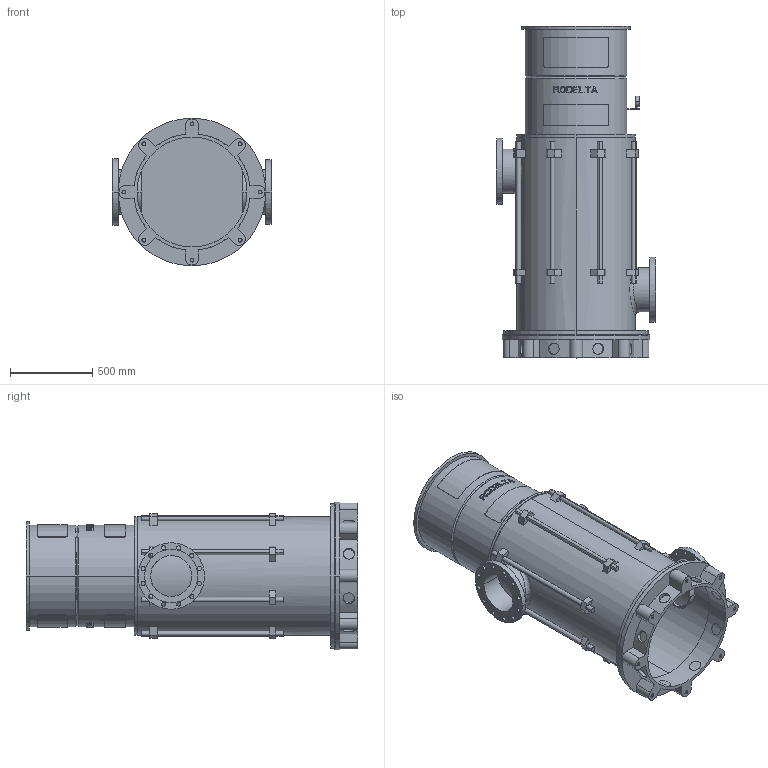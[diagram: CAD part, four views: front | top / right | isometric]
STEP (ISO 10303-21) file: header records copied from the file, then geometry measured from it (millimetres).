
FILE_DESCRIPTION((''),'2;1');
FILE_NAME('LS10_2TR_0GR_P_PN16','2025-10-20T12:06:32',('Lyritlocal'),(''),'CREO PARAMETRIC BY PTC INC, 2022014','CREO PARAMETRIC BY PTC INC, 2022014','');
FILE_SCHEMA(('CONFIG_CONTROL_DESIGN'));
Length unit declared in the file: millimetre
Products named in the file (1): LS10_2TR_0GR_P_PN16
Bounding box: 970 x 2023 x 900 mm (x, y, z)
Volume: 90074165.3 mm3; surface area: 12354674.8 mm2
Topology: 3 solids, 11 shells, 752 faces, 1934 edges, 1288 vertices
Faces by surface type: plane 462, cylinder 274, cone 12, bspline 4
Entity records: 24336 total; most frequent: CARTESIAN_POINT 5990, ORIENTED_EDGE 3836, DIRECTION 3662, EDGE_CURVE 1934, AXIS2_PLACEMENT_3D 1381, VERTEX_POINT 1288, EDGE_LOOP 924, VECTOR 900
